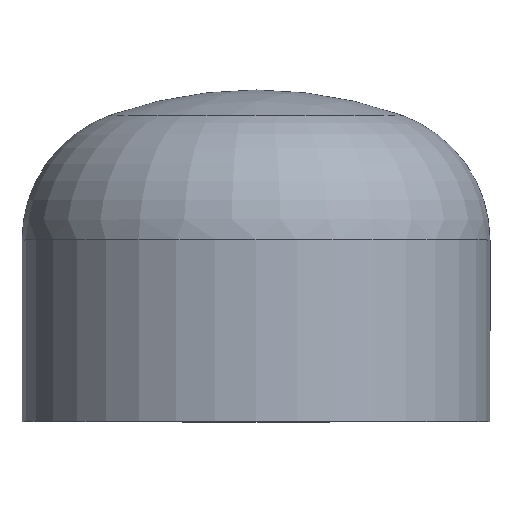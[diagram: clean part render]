
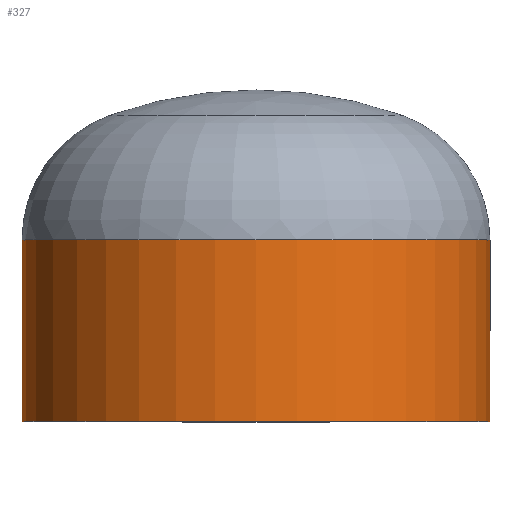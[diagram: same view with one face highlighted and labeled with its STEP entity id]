
A CAD part, top view. The second image highlights one B-rep face of the part: STEP entity #327.
In plain terms, the highlighted cylindrical face has radius 109.55 mm (diameter 219.1 mm), a partial arc.
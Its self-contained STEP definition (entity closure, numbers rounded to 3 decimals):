
#15 = VERTEX_POINT ( 'NONE', #91 ) ;
#32 = VERTEX_POINT ( 'NONE', #259 ) ;
#39 = VECTOR ( 'NONE', #337, 1000. ) ;
#65 = EDGE_LOOP ( 'NONE', ( #336, #333, #81, #148 ) ) ;
#68 = EDGE_CURVE ( 'NONE', #276, #32, #258, .T. ) ;
#80 = FACE_OUTER_BOUND ( 'NONE', #65, .T. ) ;
#81 = ORIENTED_EDGE ( 'NONE', *, *, #103, .F. ) ;
#91 = CARTESIAN_POINT ( 'NONE',  ( 109.55, 85., 0. ) ) ;
#99 = CARTESIAN_POINT ( 'NONE',  ( 0., 0., 0. ) ) ;
#103 = EDGE_CURVE ( 'NONE', #271, #32, #163, .T. ) ;
#137 = EDGE_CURVE ( 'NONE', #15, #271, #306, .T. ) ;
#145 = DIRECTION ( 'NONE',  ( 0., -1., 0. ) ) ;
#146 = VECTOR ( 'NONE', #177, 1000. ) ;
#148 = ORIENTED_EDGE ( 'NONE', *, *, #137, .F. ) ;
#163 = CIRCLE ( 'NONE', #285, 109.55 ) ;
#164 = CARTESIAN_POINT ( 'NONE',  ( -109.55, 85., 0. ) ) ;
#166 = CARTESIAN_POINT ( 'NONE',  ( 109.55, 0., 0. ) ) ;
#177 = DIRECTION ( 'NONE',  ( 0., -1., 0. ) ) ;
#215 = CARTESIAN_POINT ( 'NONE',  ( 0., 0., 0. ) ) ;
#249 = DIRECTION ( 'NONE',  ( 0., -1., 0. ) ) ;
#258 = LINE ( 'NONE', #338, #39 ) ;
#259 = CARTESIAN_POINT ( 'NONE',  ( -109.55, 0., 0. ) ) ;
#266 = CIRCLE ( 'NONE', #274, 109.55 ) ;
#271 = VERTEX_POINT ( 'NONE', #284 ) ;
#274 = AXIS2_PLACEMENT_3D ( 'NONE', #387, #249, #410 ) ;
#276 = VERTEX_POINT ( 'NONE', #164 ) ;
#284 = CARTESIAN_POINT ( 'NONE',  ( 109.55, 0., 0. ) ) ;
#285 = AXIS2_PLACEMENT_3D ( 'NONE', #99, #379, #380 ) ;
#306 = LINE ( 'NONE', #166, #146 ) ;
#318 = EDGE_CURVE ( 'NONE', #15, #276, #266, .T. ) ;
#322 = AXIS2_PLACEMENT_3D ( 'NONE', #215, #145, #325 ) ;
#324 = CYLINDRICAL_SURFACE ( 'NONE', #322, 109.55 ) ;
#325 = DIRECTION ( 'NONE',  ( 1., 0., 0. ) ) ;
#327 = ADVANCED_FACE ( 'NONE', ( #80 ), #324, .T. ) ;
#333 = ORIENTED_EDGE ( 'NONE', *, *, #68, .T. ) ;
#336 = ORIENTED_EDGE ( 'NONE', *, *, #318, .T. ) ;
#337 = DIRECTION ( 'NONE',  ( 0., -1., 0. ) ) ;
#338 = CARTESIAN_POINT ( 'NONE',  ( -109.55, 0., 0. ) ) ;
#379 = DIRECTION ( 'NONE',  ( 0., -1., 0. ) ) ;
#380 = DIRECTION ( 'NONE',  ( 1., 0., 0. ) ) ;
#387 = CARTESIAN_POINT ( 'NONE',  ( 0., 85., 0. ) ) ;
#410 = DIRECTION ( 'NONE',  ( 1., 0., 0. ) ) ;
